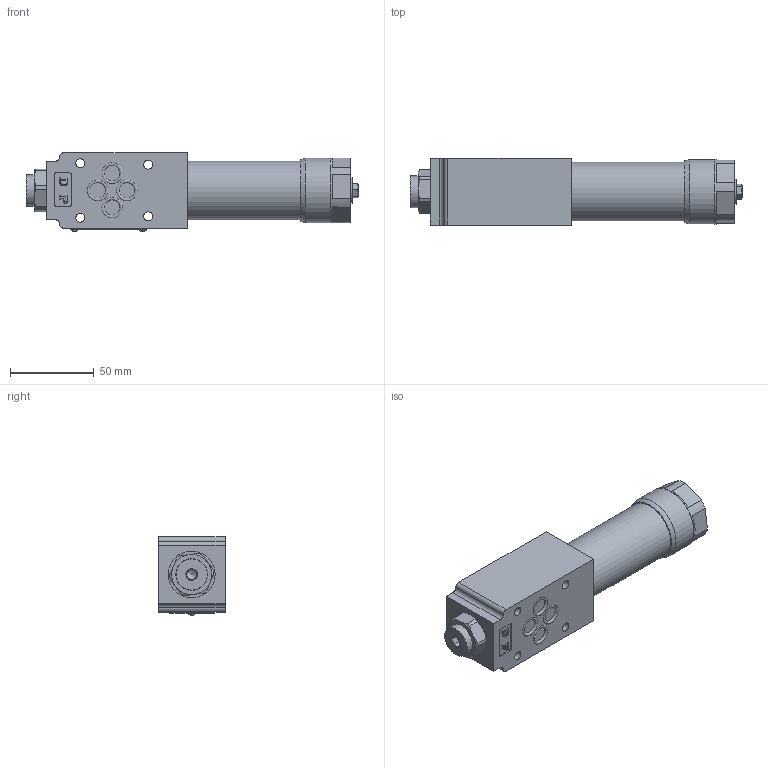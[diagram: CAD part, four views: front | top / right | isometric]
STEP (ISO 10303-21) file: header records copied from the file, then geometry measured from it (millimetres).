
FILE_DESCRIPTION(/* description */ (''),/* implementation_level */ '2;1');
FILE_NAME(/* name */ 'ZDR6DP1-4XJ叠加式减压阀.stp',/* time_stamp */ '2022-04-25T18:59:12+08:00',/* author */ (''),/* organization */ (''),/* preprocessor_version */ 'ST-DEVELOPER v16.7',/* originating_system */ 'SIEMENS PLM Software NX 12.0',/* authorisation */ '');
FILE_SCHEMA (('AUTOMOTIVE_DESIGN { 1 0 10303 214 3 1 1 1 }'));
Length unit declared in the file: millimetre
Products named in the file (1): ZDR6DP1-4XJ叠加式减压阀
Bounding box: 198.5 x 40.38 x 46.8 mm (x, y, z)
Volume: 259319.5 mm3; surface area: 53638.3 mm2
Topology: 17 solids, 18 shells, 295 faces, 680 edges, 443 vertices
Faces by surface type: plane 141, cylinder 67, cone 29, bspline 26, extrusion 19, torus 13
Full cylindrical faces by diameter (mm): 0.8 x1, 1.8 x5, 2.5 x2, 5.3 x1, 5.4 x4, 6 x1, 7 x1, 7.5 x3, 12.2 x3, 12.3 x2, 15 x1, 16 x2, 19 x1, 22 x1, 22.5 x1, 26.5 x1, 28 x1, 31.6 x1, 31.9 x1, 33.5 x1, 34.5 x1, 35 x1, 35.4 x1, 36.5 x1, 38.5 x1, 38.8 x1
Entity records: 18929 total; most frequent: CARTESIAN_POINT 12763, ORIENTED_EDGE 1152, DIRECTION 1092, EDGE_CURVE 576, AXIS2_PLACEMENT_3D 425, VERTEX_POINT 424, EDGE_LOOP 412, ADVANCED_FACE 294
